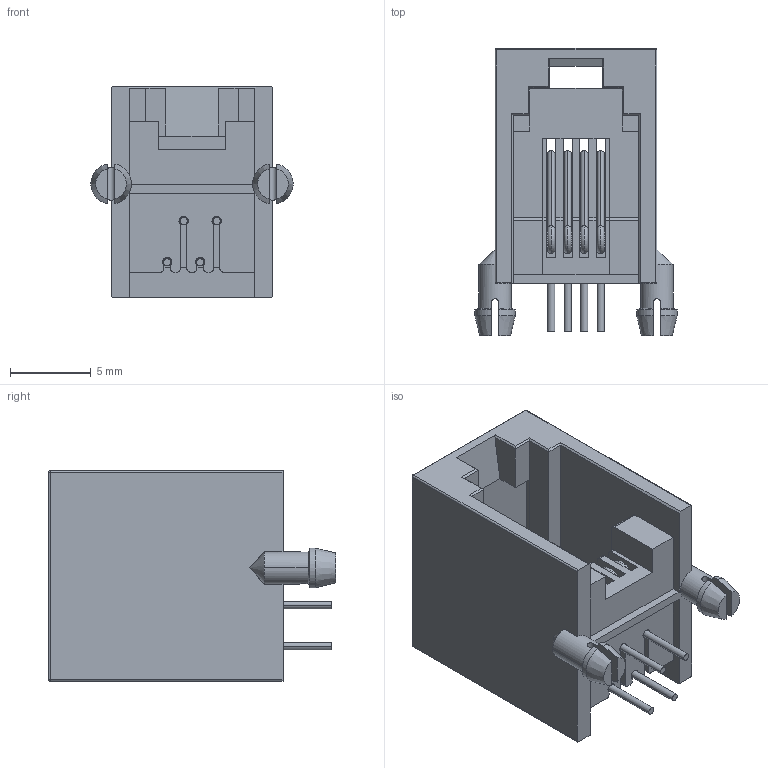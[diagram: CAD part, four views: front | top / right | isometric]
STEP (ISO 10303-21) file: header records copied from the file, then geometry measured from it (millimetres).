
FILE_DESCRIPTION((''),'2;1');
FILE_NAME('DGKYD55211144IWA1DY1017','2022-06-21T14:11:32',('Administrator'),(''),'CREO PARAMETRIC BY PTC INC, 2018400','CREO PARAMETRIC BY PTC INC, 2018400','');
FILE_SCHEMA(('CONFIG_CONTROL_DESIGN'));
Length unit declared in the file: millimetre
Products named in the file (1): DGKYD55211144IWA1DY1017
Bounding box: 12.5 x 17.75 x 13 mm (x, y, z)
Volume: 899.4 mm3; surface area: 1690.6 mm2
Topology: 1 solids, 1 shells, 211 faces, 618 edges, 406 vertices
Faces by surface type: plane 136, cylinder 53, cone 10, torus 8, sphere 4
Entity records: 7088 total; most frequent: CARTESIAN_POINT 1339, ORIENTED_EDGE 1224, DIRECTION 1176, EDGE_CURVE 612, VECTOR 430, LINE 430, VERTEX_POINT 406, AXIS2_PLACEMENT_3D 373
